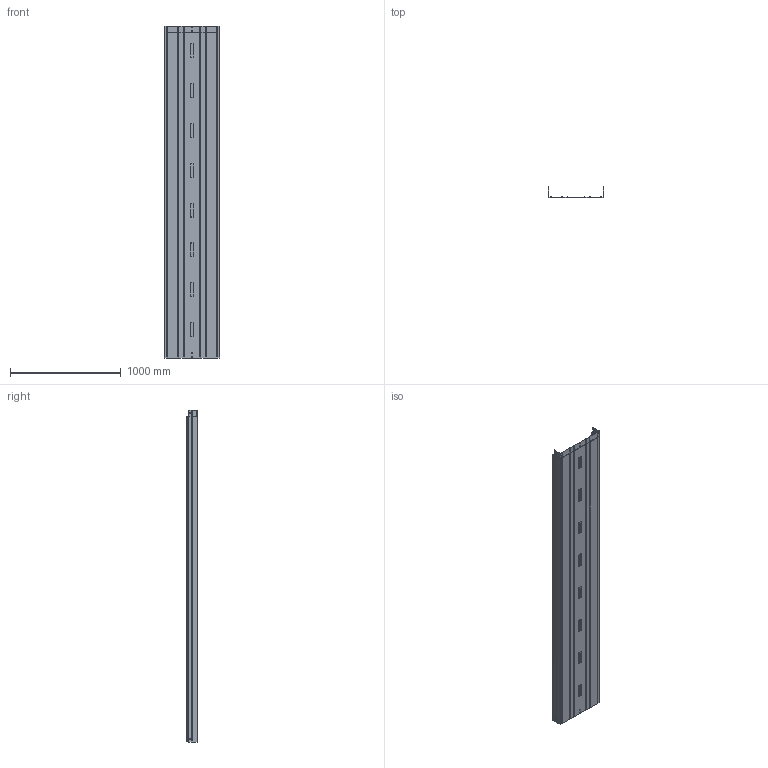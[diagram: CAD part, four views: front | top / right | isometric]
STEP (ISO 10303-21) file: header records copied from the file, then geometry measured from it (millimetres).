
FILE_DESCRIPTION (( 'STEP AP203' ), '1' );
FILE_NAME ('ERE-C 500x100 500x100.step', '2023-07-27T16:19:55', ( '' ), ( '' ), 'SwSTEP 2.0', 'SolidWorks 2022', '' );
FILE_SCHEMA (( 'CONFIG_CONTROL_DESIGN' ));
Products named in the file (1): ERE-C 500x100 500x100
Bounding box: 500 x 100.8 x 3000 mm (x, y, z)
Surface area: 4296324.1 mm2 (no closed solid volume)
Topology: 0 solids, 3 shells, 10403 faces, 30494 edges, 20158 vertices
Faces by surface type: plane 9968, cylinder 259, bspline 81, torus 64, cone 31
Entity records: 338727 total; most frequent: CARTESIAN_POINT 62754, ORIENTED_EDGE 60655, DIRECTION 51677, EDGE_CURVE 30477, VECTOR 29607, LINE 29607, VERTEX_POINT 20158, AXIS2_PLACEMENT_3D 11035
